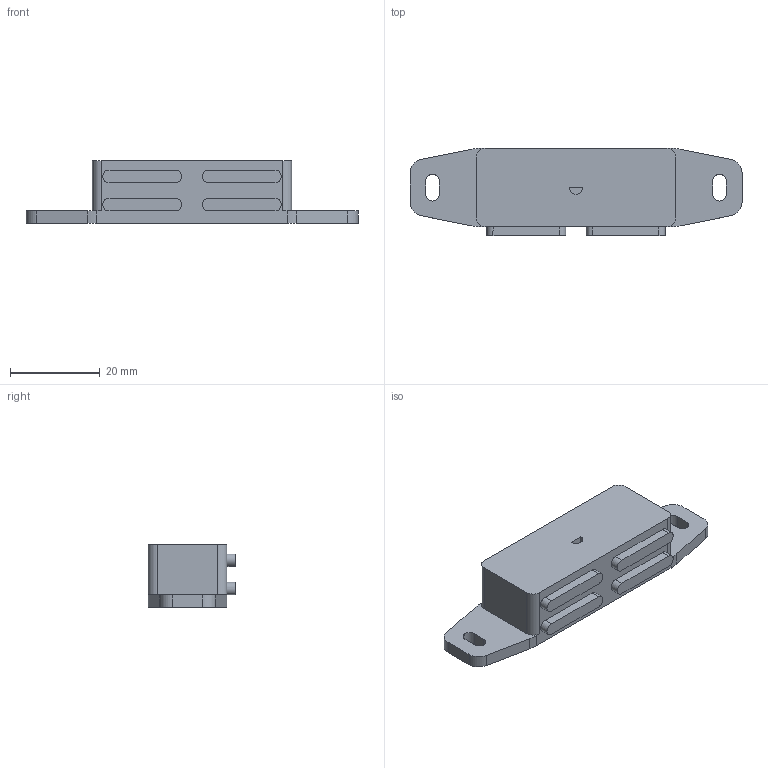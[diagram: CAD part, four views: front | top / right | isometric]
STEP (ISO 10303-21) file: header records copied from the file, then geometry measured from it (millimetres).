
FILE_DESCRIPTION((''),'2;1');
FILE_NAME('6470.12.stp','2023-10-12T12:13:46',(''),(''),'Mechanical Desktop 2006','Mechanical Desktop 2006',', , ');
FILE_SCHEMA(('CONFIG_CONTROL_DESIGN'));
Length unit declared in the file: millimetre
Products named in the file (5): 6470.12; 1AA; 1A; 1; 2
Assembly tree (1 placements, depth 2):
  6470.12
    1AA
  1A
  1
  2
Bounding box: 74 x 19.5 x 14 mm (x, y, z)
Volume: 12313.4 mm3; surface area: 4564 mm2
Topology: 1 solids, 1 shells, 62 faces, 182 edges, 144 vertices
Faces by surface type: plane 32, cylinder 30
Entity records: 2372 total; most frequent: CARTESIAN_POINT 382, DIRECTION 380, ORIENTED_EDGE 330, EDGE_CURVE 165, AXIS2_PLACEMENT_3D 133, VECTOR 114, LINE 114, VERTEX_POINT 110
